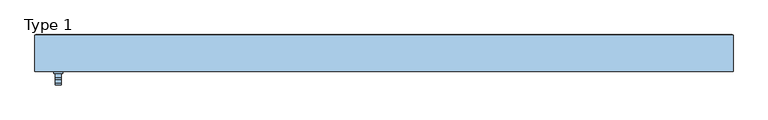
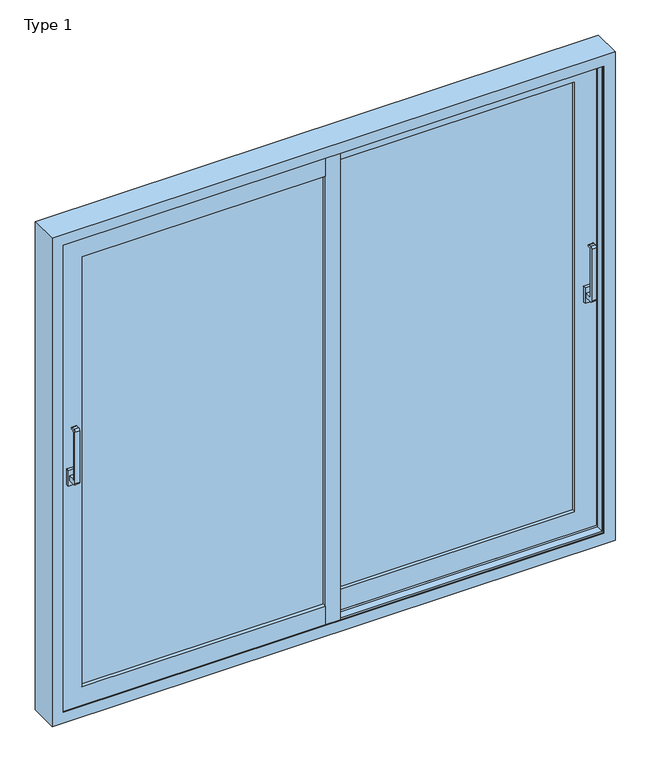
"""IFC4 building model written with IfcOpenShell, lengths in millimetres: window geometry, ETEM_E50_Double_Lift_Sliding_NI : Type 1."""

from ifc_helpers import new_model, si_unit, point, frame, frame_2d, origin, place, context, project, spatial, polyline, circle_curve, trimmed, segment, composite_curve, outline, extrude, faceted_brep, source, transform, mapped, element, save


def type_1_237cae25(model_context):
    return source(origin(), model_context, "Body", "SolidModel", [
        extrude(outline(composite_curve([segment(polyline([(37.4481944, 1090.0), (5.8745096, 1090.0)]), True, "CONTINUOUS"), segment(trimmed(circle_curve(frame_2d((5.8745096, 1098.4263152)), 8.4263152), [point((5.8745096, 1090.0))], [point((-2.5518056, 1098.4263152))], False, "CARTESIAN"), True, "CONTINUOUS"), segment(polyline([(-2.5518056, 1098.4263152), (-2.5518056, 1331.5736848)]), True, "CONTINUOUS"), segment(trimmed(circle_curve(frame_2d((5.8745096, 1331.5736848)), 8.4263152), [point((-2.5518056, 1331.5736848))], [point((5.8745096, 1340.0))], False, "CARTESIAN"), True, "CONTINUOUS"), segment(polyline([(5.8745096, 1340.0), (17.4481944, 1340.0)]), True, "CONTINUOUS"), segment(trimmed(circle_curve(frame_2d((17.4481944, 1335.0)), 5.0), [point((17.4481944, 1340.0))], [point((17.4481944, 1330.0))], False, "CARTESIAN"), True, "CONTINUOUS"), segment(polyline([(17.4481944, 1330.0), (10.9837283, 1330.0)]), True, "CONTINUOUS"), segment(trimmed(circle_curve(frame_2d((10.9837283, 1326.4644661)), 3.5355339), [point((10.9837283, 1330.0))], [point((7.4481944, 1326.4644661))], True, "CARTESIAN"), True, "CONTINUOUS"), segment(polyline([(7.4481944, 1326.4644661), (7.4481944, 1113.5355339)]), True, "CONTINUOUS"), segment(trimmed(circle_curve(frame_2d((10.9837283, 1113.5355339)), 3.5355339), [point((7.4481944, 1113.5355339))], [point((10.9837283, 1110.0))], True, "CARTESIAN"), True, "CONTINUOUS"), segment(polyline([(10.9837283, 1110.0), (37.4481944, 1110.0), (37.4481944, 1090.0)]), True, "CONTINUOUS")], self_intersect=False)), frame((1109.999965, 0.0, 0.0), z_axis=(1.0, 0.0, 0.0), x_axis=(0.0, 1.0, 0.0)), (0.0, 0.0, 1.0), 20.0),
        extrude(outline(polyline([(1134.999965, 37.4481944), (1104.999965, 37.4481944), (1104.999965, 50.4481944), (1134.999965, 50.4481944), (1134.999965, 37.4481944)])), frame((0.0, 0.0, 1065.0), z_axis=(0.0, 0.0, 1.0), x_axis=(1.0, 0.0, 0.0)), (0.0, 0.0, 1.0), 70.0),
        extrude(outline(composite_curve([segment(polyline([(-27.5518056, 1090.0), (-59.1254904, 1090.0)]), True, "CONTINUOUS"), segment(trimmed(circle_curve(frame_2d((-59.1254904, 1098.4263152)), 8.4263152), [point((-59.1254904, 1090.0))], [point((-67.5518056, 1098.4263152))], False, "CARTESIAN"), True, "CONTINUOUS"), segment(polyline([(-67.5518056, 1098.4263152), (-67.5518056, 1331.5736848)]), True, "CONTINUOUS"), segment(trimmed(circle_curve(frame_2d((-59.1254904, 1331.5736848)), 8.4263152), [point((-67.5518056, 1331.5736848))], [point((-59.1254904, 1340.0))], False, "CARTESIAN"), True, "CONTINUOUS"), segment(polyline([(-59.1254904, 1340.0), (-47.5518056, 1340.0)]), True, "CONTINUOUS"), segment(trimmed(circle_curve(frame_2d((-47.5518056, 1335.0)), 5.0), [point((-47.5518056, 1340.0))], [point((-47.5518056, 1330.0))], False, "CARTESIAN"), True, "CONTINUOUS"), segment(polyline([(-47.5518056, 1330.0), (-54.0162717, 1330.0)]), True, "CONTINUOUS"), segment(trimmed(circle_curve(frame_2d((-54.0162717, 1326.4644661)), 3.5355339), [point((-54.0162717, 1330.0))], [point((-57.5518056, 1326.4644661))], True, "CARTESIAN"), True, "CONTINUOUS"), segment(polyline([(-57.5518056, 1326.4644661), (-57.5518056, 1113.5355339)]), True, "CONTINUOUS"), segment(trimmed(circle_curve(frame_2d((-54.0162717, 1113.5355339)), 3.5355339), [point((-57.5518056, 1113.5355339))], [point((-54.0162717, 1110.0))], True, "CARTESIAN"), True, "CONTINUOUS"), segment(polyline([(-54.0162717, 1110.0), (-27.5518056, 1110.0), (-27.5518056, 1090.0)]), True, "CONTINUOUS")], self_intersect=False)), frame((-1130.0, 0.0, 0.0), z_axis=(1.0, 0.0, 0.0), x_axis=(0.0, 1.0, 0.0)), (0.0, 0.0, 1.0), 20.0),
        extrude(outline(polyline([(-1105.0, -27.5518056), (-1135.0, -27.5518056), (-1135.0, -14.5518056), (-1105.0, -14.5518056), (-1105.0, -27.5518056)])), frame((0.0, 0.0, 1065.0), z_axis=(0.0, 0.0, 1.0), x_axis=(1.0, 0.0, 0.0)), (0.0, 0.0, 1.0), 70.0),
        faceted_brep([(-1196.499965, 106.1, 0.0), (-1151.499965, 106.1, 0.0), (-1151.499965, 104.6481944, 0.0), (1151.499965, 104.6481944, 0.0), (1151.499965, 106.1, 0.0), (1196.499965, 106.1, 0.0), (1196.499965, 104.6481944, 0.0), (1200.0, 104.6481944, 0.0), (1200.0, -20.1518056, 0.0), (-1200.0, -20.1518056, 0.0), (-1200.0, 104.6481944, 0.0), (-1196.499965, 104.6481944, 0.0), (-1196.499965, 106.1, 2196.499965), (1196.499965, 106.1, 2196.499965), (1151.499965, 106.1, 2151.499965), (-1151.499965, 106.1, 2151.499965), (-1151.499965, 102.5, 2151.499965), (-1151.499965, 102.5, 19.8), (-1151.499965, 104.6481944, 19.8), (-1196.499965, 104.6481944, 2196.499965), (1151.499965, 104.6481944, 19.8), (1151.499965, 102.5, 19.8), (1151.499965, 102.5, 2151.499965), (1196.499965, 104.6481944, 2196.499965), (1178.199965, 102.5, 19.8), (1178.199965, 102.5, 2178.199965), (-1178.199965, 102.5, 2178.199965), (-1178.199965, 102.5, 19.8), (1200.0, -20.1518056, 2200.0), (-1200.0, -20.1518056, 2200.0), (1151.5, -20.1518056, 2151.5), (1151.5, -20.1518056, 48.5), (-1151.5, -20.1518056, 48.5), (-1151.5, -20.1518056, 2151.5), (1178.2, 79.9481944, 2178.2), (1178.2, 79.9481944, 21.8), (-1178.2, 79.9481944, 21.8), (-1178.2, 79.9481944, 2178.2), (1159.5, 79.9481944, 40.5), (1159.5, 79.9481944, 2159.5), (-1159.5, 79.9481944, 2159.5), (-1159.5, 79.9481944, 40.5), (1178.2, 93.1481944, 21.8), (-1178.2, 93.1481944, 21.8), (1159.5, 91.4481944, 2159.5), (1159.5, 91.4481944, 40.5), (-1159.5, 91.4481944, 40.5), (-1159.5, 91.4481944, 2159.5), (1151.5, 91.4481944, 48.5), (1151.5, 91.4481944, 2151.5), (-1151.5, 91.4481944, 2151.5), (-1151.5, 91.4481944, 48.5), (1151.5, 59.4481944, 2151.5), (1151.5, 59.4481944, 48.5), (-1151.5, 59.4481944, 48.5), (1159.5, 59.4481944, 40.5), (1159.5, 59.4481944, 2159.5), (-1159.5, 59.4481944, 2159.5), (-1159.5, 59.4481944, 40.5), (-1151.5, 59.4481944, 2151.5), (1159.5, 70.9481944, 2159.5), (1159.5, 70.9481944, 40.5), (-1159.5, 70.9481944, 40.5), (1178.2, 70.9481944, 21.8), (1178.2, 70.9481944, 2178.2), (-1178.2, 70.9481944, 2178.2), (-1178.2, 70.9481944, 21.8), (-1159.5, 70.9481944, 2159.5), (1178.2, 14.9481944, 2178.2), (1178.2, 14.9481944, 21.8), (-1178.2, 14.9481944, 21.8), (-1178.2, 14.9481944, 2178.2), (1159.5, 14.9481944, 40.5), (1159.5, 14.9481944, 2159.5), (-1159.5, 14.9481944, 2159.5), (-1159.5, 14.9481944, 40.5), (1159.5, 26.4481944, 2159.5), (1159.5, 26.4481944, 40.5), (-1159.5, 26.4481944, 40.5), (-1159.5, 26.4481944, 2159.5), (1151.5, 26.4481944, 48.5), (1151.5, 26.4481944, 2151.5), (-1151.5, 26.4481944, 2151.5), (-1151.5, 26.4481944, 48.5), (1151.5, -5.5518056, 2151.5), (1151.5, -5.5518056, 48.5), (-1151.5, -5.5518056, 48.5), (1159.5, -5.5518056, 40.5), (1159.5, -5.5518056, 2159.5), (-1159.5, -5.5518056, 2159.5), (-1159.5, -5.5518056, 40.5), (-1151.5, -5.5518056, 2151.5), (1159.5, 5.9481944, 2159.5), (1159.5, 5.9481944, 40.5), (-1159.5, 5.9481944, 40.5), (1178.2, 5.9481944, 21.8), (1178.2, 5.9481944, 2178.2), (-1178.2, 5.9481944, 2178.2), (-1178.2, 5.9481944, 21.8), (-1159.5, 5.9481944, 2159.5), (1178.2, -16.5518056, 2178.2), (1178.2, -16.5518056, 21.8), (-1178.2, -16.5518056, 21.8), (-1178.2, -16.5518056, 2178.2), (1151.5, -16.5518056, 48.5), (1151.5, -16.5518056, 2151.5), (-1151.5, -16.5518056, 2151.5), (-1151.5, -16.5518056, 48.5), (1200.0, 104.6481944, 2200.0), (-1200.0, 104.6481944, 2200.0), (-1178.199965, 93.1481944, 19.8), (1178.199965, 93.1481944, 19.8)], [[[0, 1, 2, 3, 4, 5, 6, 7, 8, 9, 10, 11]], [[1, 0, 12, 13, 5, 4, 14, 15]], [[1, 15, 16, 17, 18, 2]], [[0, 11, 19, 12]], [[14, 4, 3, 20, 21, 22]], [[6, 5, 13, 23]], [[15, 14, 22, 16]], [[13, 12, 19, 23]], [[16, 22, 21, 24, 25, 26, 27, 17]], [[8, 28, 29, 9], [30, 31, 32, 33]], [[34, 35, 36, 37], [38, 39, 40, 41]], [[35, 42, 43, 36]], [[44, 39, 38, 45]], [[45, 38, 41, 46]], [[44, 45, 46, 47], [48, 49, 50, 51]], [[52, 49, 48, 53]], [[53, 48, 51, 54]], [[55, 56, 57, 58], [52, 53, 54, 59]], [[60, 56, 55, 61]], [[61, 55, 58, 62]], [[63, 64, 65, 66], [60, 61, 62, 67]], [[68, 64, 63, 69]], [[69, 63, 66, 70]], [[68, 69, 70, 71], [72, 73, 74, 75]], [[76, 73, 72, 77]], [[77, 72, 75, 78]], [[76, 77, 78, 79], [80, 81, 82, 83]], [[84, 81, 80, 85]], [[85, 80, 83, 86]], [[87, 88, 89, 90], [84, 85, 86, 91]], [[92, 88, 87, 93]], [[93, 87, 90, 94]], [[95, 96, 97, 98], [92, 93, 94, 99]], [[100, 96, 95, 101]], [[101, 95, 98, 102]], [[100, 101, 102, 103], [104, 105, 106, 107]], [[30, 105, 104, 31]], [[31, 104, 107, 32]], [[46, 41, 40, 47]], [[54, 51, 50, 59]], [[62, 58, 57, 67]], [[70, 66, 65, 71]], [[78, 75, 74, 79]], [[86, 83, 82, 91]], [[94, 90, 89, 99]], [[102, 98, 97, 103]], [[32, 107, 106, 33]], [[39, 44, 47, 40]], [[49, 52, 59, 50]], [[56, 60, 67, 57]], [[64, 68, 71, 65]], [[73, 76, 79, 74]], [[81, 84, 91, 82]], [[88, 92, 99, 89]], [[96, 100, 103, 97]], [[105, 30, 33, 106]], [[3, 2, 18, 20]], [[108, 7, 6, 23, 19, 11, 10, 109]], [[108, 28, 8, 7]], [[10, 9, 29, 109]], [[110, 111, 24, 21, 20, 18, 17, 27]], [[34, 25, 24, 111, 42, 35]], [[43, 42, 111, 110]], [[26, 37, 36, 43, 110, 27]], [[28, 108, 109, 29]], [[26, 25, 34, 37]]]),
        faceted_brep([(-32.5, 35.4481944, 131.0), (-32.5, -14.5518056, 131.0), (-32.5, -14.5518056, 39.5), (-32.5, -9.8518056, 39.5), (-32.5, -9.8518056, 68.7), (-32.5, 30.7481944, 68.7), (-32.5, 30.7481944, 39.5), (-32.5, 35.4481944, 39.5), (-1068.999965, 35.4481944, 131.0), (-1068.999965, -14.5518056, 131.0), (-1068.999965, -14.5518056, 2069.0), (-32.5, -14.5518056, 2069.0), (-32.5, -14.5518056, 2160.5), (-1160.499965, -14.5518056, 2160.5), (-1160.499965, -14.5518056, 39.5), (-1160.499965, -9.8518056, 39.5), (-1160.499965, -9.8518056, 2160.5), (-32.5, -9.8518056, 2160.5), (-32.5, -9.8518056, 2131.3), (-1131.299965, -9.8518056, 2131.3), (-1131.299965, -9.8518056, 68.7), (-1131.299965, 30.7481944, 68.7), (-1131.299965, 30.7481944, 2131.3), (-32.5, 30.7481944, 2131.3), (-32.5, 30.7481944, 2160.5), (-1160.499965, 30.7481944, 2160.5), (-1160.499965, 30.7481944, 39.5), (-1160.499965, 35.4481944, 39.5), (-1160.499965, 35.4481944, 2160.5), (-32.5, 35.4481944, 2160.5), (-32.5, 35.4481944, 2069.0), (-1068.999965, 35.4481944, 2069.0)], [[[0, 1, 2, 3, 4, 5, 6, 7]], [[1, 0, 8, 9]], [[2, 1, 9, 10, 11, 12, 13, 14]], [[3, 2, 14, 15]], [[4, 3, 15, 16, 17, 18, 19, 20]], [[5, 4, 20, 21]], [[6, 5, 21, 22, 23, 24, 25, 26]], [[7, 6, 26, 27]], [[0, 7, 27, 28, 29, 30, 31, 8]], [[9, 8, 31, 10]], [[15, 14, 13, 16]], [[21, 20, 19, 22]], [[27, 26, 25, 28]], [[30, 29, 24, 23, 18, 17, 12, 11]], [[10, 31, 30, 11]], [[16, 13, 12, 17]], [[22, 19, 18, 23]], [[28, 25, 24, 29]]]),
        extrude(outline(polyline([(-1068.999965, 6.4247265), (-32.5, 6.4247265), (-32.5, 1.4246054), (-1068.999965, 1.4246054), (-1068.999965, 6.4247265)])), frame((0.0, 0.0, 131.0), z_axis=(0.0, 0.0, 1.0), x_axis=(1.0, 0.0, 0.0)), (0.0, 0.0, 1.0), 1938.0),
        extrude(outline(polyline([(32.5, 92.4480733), (1068.999965, 92.4480733), (1068.999965, 87.4480733), (32.5, 87.4480733), (32.5, 92.4480733)])), frame((0.0, 0.0, 131.0), z_axis=(0.0, 0.0, 1.0), x_axis=(1.0, 0.0, 0.0)), (0.0, 0.0, 1.0), 1938.0),
        faceted_brep([(32.5, 100.4481944, 131.0), (32.5, 100.4481944, 39.5), (32.5, 95.7481944, 39.5), (32.5, 95.7481944, 68.7), (32.5, 55.1481944, 68.7), (32.5, 55.1481944, 39.5), (32.5, 50.4481944, 39.5), (32.5, 50.4481944, 131.0), (32.5, 100.4481944, 2069.0), (32.5, 50.4481944, 2069.0), (32.5, 50.4481944, 2160.5), (32.5, 55.1481944, 2160.5), (32.5, 55.1481944, 2131.3), (32.5, 95.7481944, 2131.3), (32.5, 95.7481944, 2160.5), (32.5, 100.4481944, 2160.5), (1068.999965, 100.4481944, 131.0), (1068.999965, 100.4481944, 2069.0), (1160.499965, 100.4481944, 2160.5), (1160.499965, 100.4481944, 39.5), (1160.499965, 95.7481944, 39.5), (1160.499965, 95.7481944, 2160.5), (1131.299965, 95.7481944, 2131.3), (1131.299965, 95.7481944, 68.7), (1131.299965, 55.1481944, 68.7), (1131.299965, 55.1481944, 2131.3), (1160.499965, 55.1481944, 2160.5), (1160.499965, 55.1481944, 39.5), (1160.499965, 50.4481944, 39.5), (1160.499965, 50.4481944, 2160.5), (1068.999965, 50.4481944, 2069.0), (1068.999965, 50.4481944, 131.0)], [[[0, 1, 2, 3, 4, 5, 6, 7]], [[8, 9, 10, 11, 12, 13, 14, 15]], [[1, 0, 16, 17, 8, 15, 18, 19]], [[2, 1, 19, 20]], [[3, 2, 20, 21, 14, 13, 22, 23]], [[4, 3, 23, 24]], [[5, 4, 24, 25, 12, 11, 26, 27]], [[6, 5, 27, 28]], [[7, 6, 28, 29, 10, 9, 30, 31]], [[0, 7, 31, 16]], [[16, 31, 30, 17]], [[20, 19, 18, 21]], [[24, 23, 22, 25]], [[28, 27, 26, 29]], [[21, 18, 15, 14]], [[25, 22, 13, 12]], [[29, 26, 11, 10]], [[17, 30, 9, 8]]]),
        extrude(outline(polyline([(32.5, -14.5518056), (-32.5, -14.5518056), (-32.5, 35.4481944), (2.55, 35.4481944), (2.55, 42.9740972), (0.0, 42.9740972), (0.0, 44.8481944), (4.4, 44.8481944), (4.4, 40.1481944), (15.75, 40.1481944), (15.75, 46.4481944), (32.5, 46.4481944), (32.5, -14.5518056)])), frame((0.0, 0.0, 39.5), z_axis=(0.0, 0.0, 1.0), x_axis=(1.0, 0.0, 0.0)), (0.0, 0.0, 1.0), 2121.0),
        extrude(outline(polyline([(-1068.999965, 27.4247265), (-32.5, 27.4247265), (-32.5, 22.4246054), (-1068.999965, 22.4246054), (-1068.999965, 27.4247265)])), frame((0.0, 0.0, 131.0), z_axis=(0.0, 0.0, 1.0), x_axis=(1.0, 0.0, 0.0)), (0.0, 0.0, 1.0), 1938.0),
        extrude(outline(polyline([(32.5, 71.4481944), (1068.999965, 71.4481944), (1068.999965, 66.4481944), (32.5, 66.4481944), (32.5, 71.4481944)])), frame((0.0, 0.0, 131.0), z_axis=(0.0, 0.0, 1.0), x_axis=(1.0, 0.0, 0.0)), (0.0, 0.0, 1.0), 1938.0),
        extrude(outline(polyline([(-32.5, 100.5), (32.5, 100.5), (32.5, 50.5), (-2.55, 50.5), (-2.55, 42.9740972), (0.0, 42.9740972), (0.0, 41.1), (-4.4, 41.1), (-4.4, 45.8), (-15.75, 45.8), (-15.75, 39.5), (-32.5, 39.5), (-32.5, 100.5)])), frame((0.0, 0.0, 39.5), z_axis=(0.0, 0.0, 1.0), x_axis=(1.0, 0.0, 0.0)), (0.0, 0.0, 1.0), 2121.0),
    ])


if __name__ == "__main__":
    model = new_model("IFC4")
    model_context = context("Model", 3, world=origin())
    ifc_project = project(units=[si_unit("LENGTHUNIT", "METRE", prefix="MILLI")], contexts=[model_context])
    site = spatial("IfcSite", under=ifc_project)
    building = spatial("IfcBuilding", under=site)
    placement = place(None, origin())
    type_1_shape = type_1_237cae25(model_context)
    element("IfcWindow", 1, ObjectType="ETEM_E50_Double_Lift_Sliding_NI : Type 1", at=placement, inside=building, context=model_context, shape_type="MappedRepresentation", body=[
        mapped(type_1_shape, transform((0.0, 0.0, 0.0), x_axis=(1.0, 0.0, 0.0), y_axis=(0.0, 1.0, 0.0), z_axis=(0.0, 0.0, 1.0))),
    ])
    save(model, "model.ifc")
